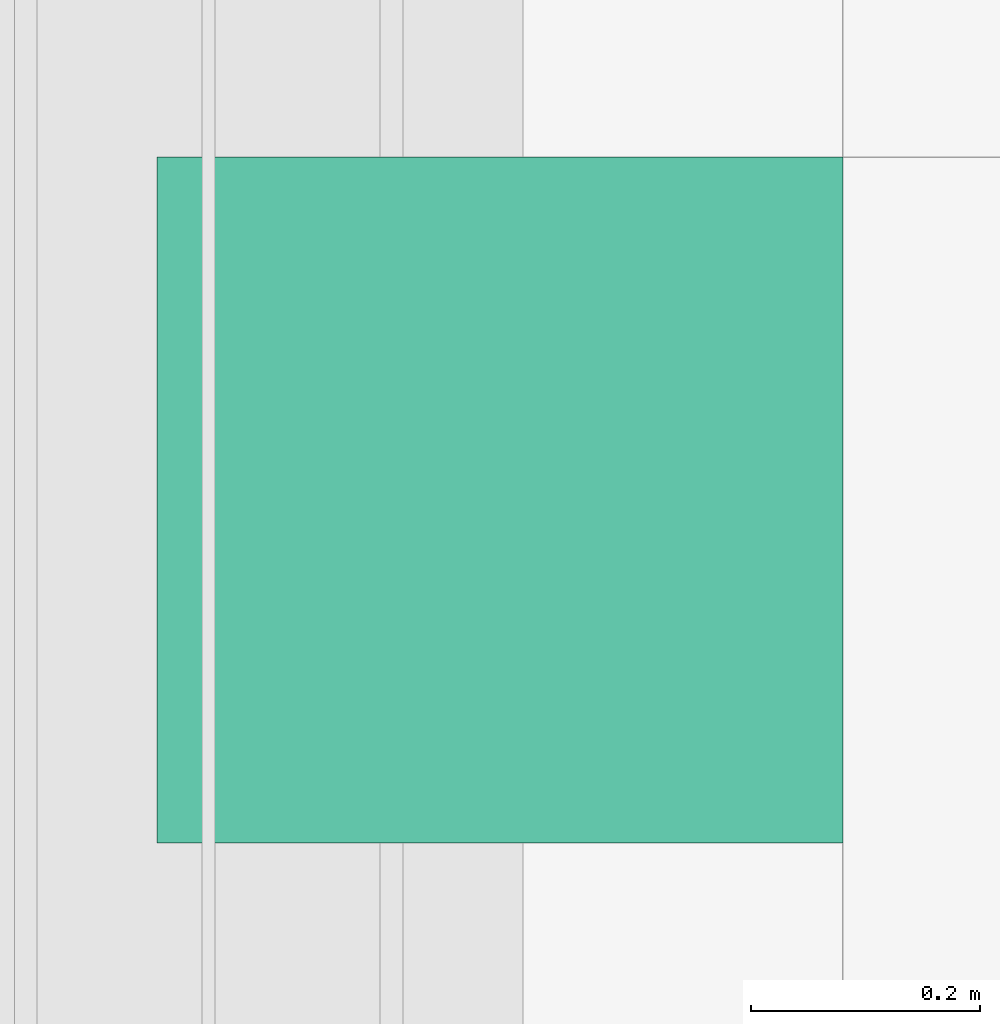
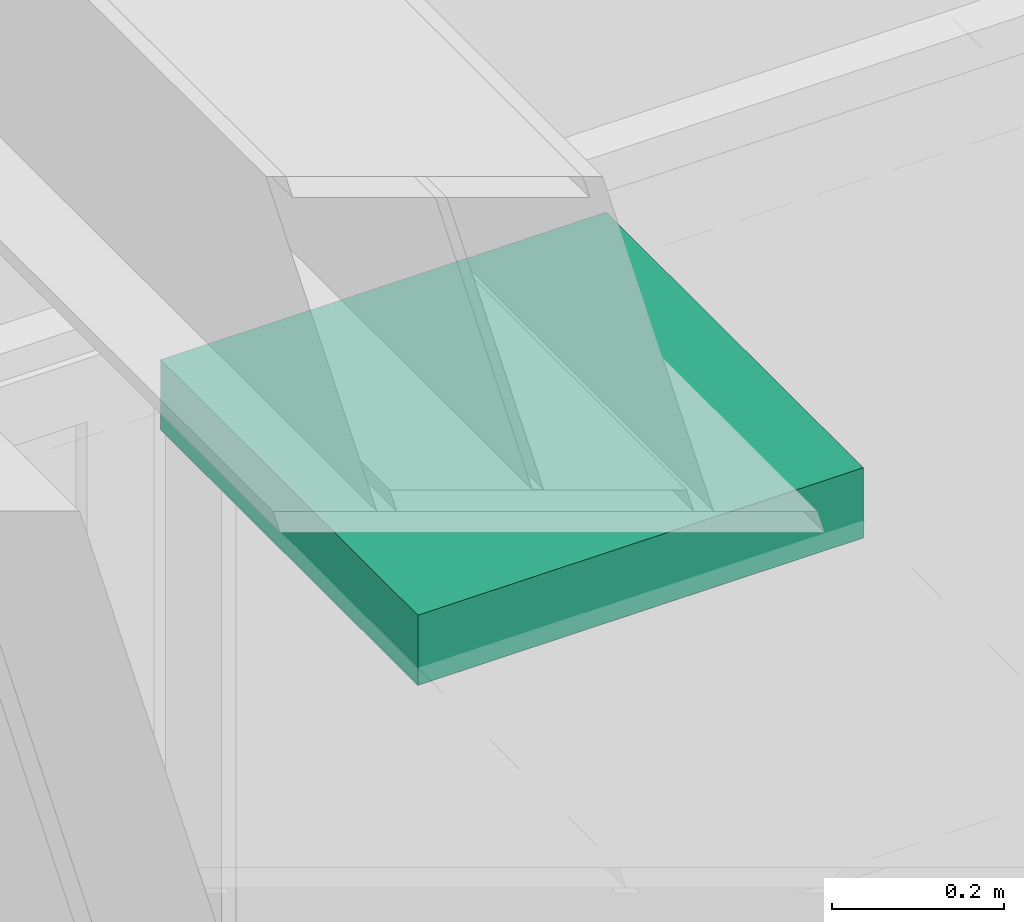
# One storey, part 294 of 347: 1 flow terminal.
"""IFC2X3 building model written with IfcOpenShell, lengths in millimetres."""

from ifc_helpers import new_model, entity, si_unit, converted_unit, derived_unit, money_unit, direction, frame, origin_with_axes, place, context, subcontext, project, spatial, open_shell, faceted_brep, surface_model, source, transform, mapped, type_object, type_shapes, element, save


model = new_model("IFC2X3")

# Units and contexts
model_context = context("Model", 3, precision=0.01, world=origin_with_axes(), true_north=direction((0.0, 1.0)))
plan_context = context("Plan", 3, precision=0.01, world=origin_with_axes(), true_north=direction((0.0, 1.0)))
body_context = subcontext(model_context, "Body", "Model", "MODEL_VIEW")
ifc_project = project(units=[si_unit("LENGTHUNIT", "METRE", prefix="MILLI"), si_unit("AREAUNIT", "SQUARE_METRE"), si_unit("VOLUMEUNIT", "CUBIC_METRE"), converted_unit("PLANEANGLEUNIT", "DEGREE", entity("IfcPlaneAngleMeasure", 0.0174532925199), si_unit("PLANEANGLEUNIT", "RADIAN"), dimensions=[0, 0, 0, 0, 0, 0, 0]), money_unit("EUR"), converted_unit("TIMEUNIT", "Year", entity("IfcTimeMeasure", 31556926.0), si_unit("TIMEUNIT", "SECOND"), dimensions=[0, 0, 1, 0, 0, 0, 0]), si_unit("MASSUNIT", "GRAM", prefix="KILO"), si_unit("THERMODYNAMICTEMPERATUREUNIT", "DEGREE_CELSIUS"), si_unit("LUMINOUSINTENSITYUNIT", "LUMEN"), si_unit("ENERGYUNIT", "JOULE", prefix="MEGA"), derived_unit("THERMALCONDUCTANCEUNIT", [(si_unit("POWERUNIT", "WATT"), 1), (si_unit("LENGTHUNIT", "METRE"), -1), (si_unit("THERMODYNAMICTEMPERATUREUNIT", "KELVIN"), -1)]), derived_unit("SPECIFICHEATCAPACITYUNIT", [(si_unit("ENERGYUNIT", "JOULE"), 1), (si_unit("MASSUNIT", "GRAM", prefix="KILO"), -1), (si_unit("THERMODYNAMICTEMPERATUREUNIT", "KELVIN"), -1)]), derived_unit("MASSDENSITYUNIT", [(si_unit("MASSUNIT", "GRAM", prefix="KILO"), 1), (si_unit("VOLUMEUNIT", "CUBIC_METRE"), -1)])], contexts=[model_context, plan_context])

# Site, building, storey
site_placement = place(None, origin_with_axes())
site = spatial("IfcSite", under=ifc_project, at=site_placement, Name="Site", CompositionType="ELEMENT")
building_placement = place(site_placement, origin_with_axes())
building = spatial("IfcBuilding", under=site, at=building_placement, Name="Naam gebouw", CompositionType="ELEMENT")
storey_placement = place(building_placement, origin_with_axes())
storey = spatial("IfcBuildingStorey", under=building, at=storey_placement, Name="begane grond", CompositionType="ELEMENT", Elevation=0.0)

# Flow terminal
lamp_type = type_object("IfcLampType", Name="TL plafond 25", PredefinedType="NOTDEFINED")
shared_shape = source(origin_with_axes(), body_context, "Body", "SurfaceModel", [
    faceted_brep([(0.0, 0.0, -100.0), (0.0, 0.0, 0.0), (-600.0, 0.0, 0.0), (-600.0, 0.0, -100.0), (0.0, 600.0, -100.0), (0.0, 600.0, 0.0), (-600.0, 600.0, 0.0), (-40.0, 40.0, 0.0), (-560.0, 40.0, 0.0), (-560.0, 560.0, 0.0), (-40.0, 560.0, 0.0), (-600.0, 600.0, -100.0), (-40.0, 40.0, -100.0), (-40.0, 560.0, -100.0), (-560.0, 560.0, -100.0), (-560.0, 40.0, -100.0)], [[[0, 1, 2, 3]], [[4, 5, 1, 0]], [[1, 5, 6, 2], [7, 8, 9, 10]], [[3, 2, 6, 11]], [[0, 3, 11, 4], [12, 13, 14, 15]], [[11, 6, 5, 4]], [[15, 8, 7, 12]], [[14, 9, 8, 15]], [[13, 10, 9, 14]], [[12, 7, 10, 13]]]),
    faceted_brep([(-40.0, 40.0, -16.3333333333), (-40.0, 40.0, 0.0), (-560.0, 40.0, 0.0), (-560.0, 40.0, -16.3333333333), (-40.0, 560.0, -16.3333333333), (-40.0, 560.0, 0.0), (-560.0, 560.0, 0.0), (-560.0, 560.0, -16.3333333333)], [[[0, 1, 2, 3]], [[4, 5, 1, 0]], [[1, 5, 6, 2]], [[3, 2, 6, 7]], [[0, 3, 7, 4]], [[7, 6, 5, 4]]]),
    surface_model("IfcShellBasedSurfaceModel", [(-559.0, 41.0, -100.0), (-559.0, 559.0, -100.0), (-40.0, 559.0, -100.0), (-40.0, 41.0, -100.0)], [open_shell([[[0, 1, 2, 3]]])]),
    faceted_brep([(-40.0, 40.0, -100.0), (-40.0, 40.0, -60.0), (-560.0, 40.0, -60.0), (-560.0, 40.0, -100.0), (-40.0, 560.0, -100.0), (-40.0, 560.0, -60.0), (-560.0, 560.0, -60.0), (-41.0, 41.0, -60.0), (-559.0, 41.0, -60.0), (-559.0, 559.0, -60.0), (-41.0, 559.0, -60.0), (-560.0, 560.0, -100.0), (-41.0, 41.0, -100.0), (-41.0, 559.0, -100.0), (-559.0, 559.0, -100.0), (-559.0, 41.0, -100.0)], [[[0, 1, 2, 3]], [[4, 5, 1, 0]], [[1, 5, 6, 2], [7, 8, 9, 10]], [[3, 2, 6, 11]], [[0, 3, 11, 4], [12, 13, 14, 15]], [[11, 6, 5, 4]], [[15, 8, 7, 12]], [[14, 9, 8, 15]], [[13, 10, 9, 14]], [[12, 7, 10, 13]]]),
    faceted_brep([(-40.0, 144.0, -48.3333333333), (-560.0, 144.0, -48.3333333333), (-560.0, 149.740251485, -47.191526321), (-40.0, 149.740251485, -47.191526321), (-40.0, 138.259748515, -47.191526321), (-560.0, 138.259748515, -47.191526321), (-560.0, 133.393398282, -43.9399350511), (-560.0, 130.141807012, -39.0735848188), (-560.0, 129.0, -33.3333333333), (-560.0, 130.141807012, -27.5930818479), (-560.0, 133.393398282, -22.7267316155), (-560.0, 138.259748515, -19.4751403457), (-560.0, 144.0, -18.3333333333), (-560.0, 149.740251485, -19.4751403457), (-560.0, 154.606601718, -22.7267316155), (-560.0, 157.858192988, -27.5930818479), (-560.0, 159.0, -33.3333333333), (-560.0, 157.858192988, -39.0735848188), (-560.0, 154.606601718, -43.9399350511), (-560.0, 144.0, -46.3333333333), (-560.0, 148.974884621, -45.343767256), (-560.0, 153.192388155, -42.5257214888), (-560.0, 156.010433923, -38.3082179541), (-560.0, 157.0, -33.3333333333), (-560.0, 156.010433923, -28.3584487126), (-560.0, 153.192388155, -24.1409451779), (-560.0, 148.974884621, -21.3228994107), (-560.0, 144.0, -20.3333333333), (-560.0, 139.025115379, -21.3228994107), (-560.0, 134.807611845, -24.1409451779), (-560.0, 131.989566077, -28.3584487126), (-560.0, 131.0, -33.3333333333), (-560.0, 131.989566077, -38.3082179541), (-560.0, 134.807611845, -42.5257214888), (-560.0, 139.025115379, -45.343767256), (-40.0, 154.606601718, -43.9399350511), (-40.0, 157.858192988, -39.0735848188), (-40.0, 159.0, -33.3333333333), (-40.0, 157.858192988, -27.5930818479), (-40.0, 154.606601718, -22.7267316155), (-40.0, 149.740251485, -19.4751403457), (-40.0, 144.0, -18.3333333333), (-40.0, 138.259748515, -19.4751403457), (-40.0, 133.393398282, -22.7267316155), (-40.0, 130.141807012, -27.5930818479), (-40.0, 129.0, -33.3333333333), (-40.0, 130.141807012, -39.0735848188), (-40.0, 133.393398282, -43.9399350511), (-40.0, 144.0, -46.3333333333), (-40.0, 139.025115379, -45.343767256), (-40.0, 134.807611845, -42.5257214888), (-40.0, 131.989566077, -38.3082179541), (-40.0, 131.0, -33.3333333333), (-40.0, 131.989566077, -28.3584487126), (-40.0, 134.807611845, -24.1409451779), (-40.0, 139.025115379, -21.3228994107), (-40.0, 144.0, -20.3333333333), (-40.0, 148.974884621, -21.3228994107), (-40.0, 153.192388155, -24.1409451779), (-40.0, 156.010433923, -28.3584487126), (-40.0, 157.0, -33.3333333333), (-40.0, 156.010433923, -38.3082179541), (-40.0, 153.192388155, -42.5257214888), (-40.0, 148.974884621, -45.343767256)], [[[0, 1, 2, 3]], [[4, 5, 1, 0]], [[1, 5, 6, 7, 8, 9, 10, 11, 12, 13, 14, 15, 16, 17, 18, 2], [19, 20, 21, 22, 23, 24, 25, 26, 27, 28, 29, 30, 31, 32, 33, 34]], [[3, 2, 18, 35]], [[0, 3, 35, 36, 37, 38, 39, 40, 41, 42, 43, 44, 45, 46, 47, 4], [48, 49, 50, 51, 52, 53, 54, 55, 56, 57, 58, 59, 60, 61, 62, 63]], [[47, 6, 5, 4]], [[46, 7, 6, 47]], [[45, 8, 7, 46]], [[44, 9, 8, 45]], [[43, 10, 9, 44]], [[42, 11, 10, 43]], [[41, 12, 11, 42]], [[40, 13, 12, 41]], [[39, 14, 13, 40]], [[38, 15, 14, 39]], [[37, 16, 15, 38]], [[36, 17, 16, 37]], [[35, 18, 17, 36]], [[63, 20, 19, 48]], [[62, 21, 20, 63]], [[61, 22, 21, 62]], [[60, 23, 22, 61]], [[59, 24, 23, 60]], [[58, 25, 24, 59]], [[57, 26, 25, 58]], [[56, 27, 26, 57]], [[55, 28, 27, 56]], [[54, 29, 28, 55]], [[53, 30, 29, 54]], [[52, 31, 30, 53]], [[51, 32, 31, 52]], [[50, 33, 32, 51]], [[49, 34, 33, 50]], [[48, 19, 34, 49]]]),
    faceted_brep([(-40.0, 248.0, -48.3333333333), (-560.0, 248.0, -48.3333333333), (-560.0, 253.740251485, -47.191526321), (-40.0, 253.740251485, -47.191526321), (-40.0, 242.259748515, -47.191526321), (-560.0, 242.259748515, -47.191526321), (-560.0, 237.393398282, -43.9399350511), (-560.0, 234.141807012, -39.0735848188), (-560.0, 233.0, -33.3333333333), (-560.0, 234.141807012, -27.5930818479), (-560.0, 237.393398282, -22.7267316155), (-560.0, 242.259748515, -19.4751403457), (-560.0, 248.0, -18.3333333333), (-560.0, 253.740251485, -19.4751403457), (-560.0, 258.606601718, -22.7267316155), (-560.0, 261.858192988, -27.5930818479), (-560.0, 263.0, -33.3333333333), (-560.0, 261.858192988, -39.0735848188), (-560.0, 258.606601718, -43.9399350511), (-560.0, 248.0, -46.3333333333), (-560.0, 252.974884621, -45.343767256), (-560.0, 257.192388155, -42.5257214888), (-560.0, 260.010433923, -38.3082179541), (-560.0, 261.0, -33.3333333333), (-560.0, 260.010433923, -28.3584487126), (-560.0, 257.192388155, -24.1409451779), (-560.0, 252.974884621, -21.3228994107), (-560.0, 248.0, -20.3333333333), (-560.0, 243.025115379, -21.3228994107), (-560.0, 238.807611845, -24.1409451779), (-560.0, 235.989566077, -28.3584487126), (-560.0, 235.0, -33.3333333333), (-560.0, 235.989566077, -38.3082179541), (-560.0, 238.807611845, -42.5257214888), (-560.0, 243.025115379, -45.343767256), (-40.0, 258.606601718, -43.9399350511), (-40.0, 261.858192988, -39.0735848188), (-40.0, 263.0, -33.3333333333), (-40.0, 261.858192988, -27.5930818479), (-40.0, 258.606601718, -22.7267316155), (-40.0, 253.740251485, -19.4751403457), (-40.0, 248.0, -18.3333333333), (-40.0, 242.259748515, -19.4751403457), (-40.0, 237.393398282, -22.7267316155), (-40.0, 234.141807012, -27.5930818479), (-40.0, 233.0, -33.3333333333), (-40.0, 234.141807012, -39.0735848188), (-40.0, 237.393398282, -43.9399350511), (-40.0, 248.0, -46.3333333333), (-40.0, 243.025115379, -45.343767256), (-40.0, 238.807611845, -42.5257214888), (-40.0, 235.989566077, -38.3082179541), (-40.0, 235.0, -33.3333333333), (-40.0, 235.989566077, -28.3584487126), (-40.0, 238.807611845, -24.1409451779), (-40.0, 243.025115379, -21.3228994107), (-40.0, 248.0, -20.3333333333), (-40.0, 252.974884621, -21.3228994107), (-40.0, 257.192388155, -24.1409451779), (-40.0, 260.010433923, -28.3584487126), (-40.0, 261.0, -33.3333333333), (-40.0, 260.010433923, -38.3082179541), (-40.0, 257.192388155, -42.5257214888), (-40.0, 252.974884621, -45.343767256)], [[[0, 1, 2, 3]], [[4, 5, 1, 0]], [[1, 5, 6, 7, 8, 9, 10, 11, 12, 13, 14, 15, 16, 17, 18, 2], [19, 20, 21, 22, 23, 24, 25, 26, 27, 28, 29, 30, 31, 32, 33, 34]], [[3, 2, 18, 35]], [[0, 3, 35, 36, 37, 38, 39, 40, 41, 42, 43, 44, 45, 46, 47, 4], [48, 49, 50, 51, 52, 53, 54, 55, 56, 57, 58, 59, 60, 61, 62, 63]], [[47, 6, 5, 4]], [[46, 7, 6, 47]], [[45, 8, 7, 46]], [[44, 9, 8, 45]], [[43, 10, 9, 44]], [[42, 11, 10, 43]], [[41, 12, 11, 42]], [[40, 13, 12, 41]], [[39, 14, 13, 40]], [[38, 15, 14, 39]], [[37, 16, 15, 38]], [[36, 17, 16, 37]], [[35, 18, 17, 36]], [[63, 20, 19, 48]], [[62, 21, 20, 63]], [[61, 22, 21, 62]], [[60, 23, 22, 61]], [[59, 24, 23, 60]], [[58, 25, 24, 59]], [[57, 26, 25, 58]], [[56, 27, 26, 57]], [[55, 28, 27, 56]], [[54, 29, 28, 55]], [[53, 30, 29, 54]], [[52, 31, 30, 53]], [[51, 32, 31, 52]], [[50, 33, 32, 51]], [[49, 34, 33, 50]], [[48, 19, 34, 49]]]),
    faceted_brep([(-40.0, 352.0, -48.3333333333), (-560.0, 352.0, -48.3333333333), (-560.0, 357.740251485, -47.191526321), (-40.0, 357.740251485, -47.191526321), (-40.0, 346.259748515, -47.191526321), (-560.0, 346.259748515, -47.191526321), (-560.0, 341.393398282, -43.9399350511), (-560.0, 338.141807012, -39.0735848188), (-560.0, 337.0, -33.3333333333), (-560.0, 338.141807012, -27.5930818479), (-560.0, 341.393398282, -22.7267316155), (-560.0, 346.259748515, -19.4751403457), (-560.0, 352.0, -18.3333333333), (-560.0, 357.740251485, -19.4751403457), (-560.0, 362.606601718, -22.7267316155), (-560.0, 365.858192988, -27.5930818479), (-560.0, 367.0, -33.3333333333), (-560.0, 365.858192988, -39.0735848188), (-560.0, 362.606601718, -43.9399350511), (-560.0, 352.0, -46.3333333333), (-560.0, 356.974884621, -45.343767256), (-560.0, 361.192388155, -42.5257214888), (-560.0, 364.010433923, -38.3082179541), (-560.0, 365.0, -33.3333333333), (-560.0, 364.010433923, -28.3584487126), (-560.0, 361.192388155, -24.1409451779), (-560.0, 356.974884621, -21.3228994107), (-560.0, 352.0, -20.3333333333), (-560.0, 347.025115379, -21.3228994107), (-560.0, 342.807611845, -24.1409451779), (-560.0, 339.989566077, -28.3584487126), (-560.0, 339.0, -33.3333333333), (-560.0, 339.989566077, -38.3082179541), (-560.0, 342.807611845, -42.5257214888), (-560.0, 347.025115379, -45.343767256), (-40.0, 362.606601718, -43.9399350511), (-40.0, 365.858192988, -39.0735848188), (-40.0, 367.0, -33.3333333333), (-40.0, 365.858192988, -27.5930818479), (-40.0, 362.606601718, -22.7267316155), (-40.0, 357.740251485, -19.4751403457), (-40.0, 352.0, -18.3333333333), (-40.0, 346.259748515, -19.4751403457), (-40.0, 341.393398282, -22.7267316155), (-40.0, 338.141807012, -27.5930818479), (-40.0, 337.0, -33.3333333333), (-40.0, 338.141807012, -39.0735848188), (-40.0, 341.393398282, -43.9399350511), (-40.0, 352.0, -46.3333333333), (-40.0, 347.025115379, -45.343767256), (-40.0, 342.807611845, -42.5257214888), (-40.0, 339.989566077, -38.3082179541), (-40.0, 339.0, -33.3333333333), (-40.0, 339.989566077, -28.3584487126), (-40.0, 342.807611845, -24.1409451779), (-40.0, 347.025115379, -21.3228994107), (-40.0, 352.0, -20.3333333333), (-40.0, 356.974884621, -21.3228994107), (-40.0, 361.192388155, -24.1409451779), (-40.0, 364.010433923, -28.3584487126), (-40.0, 365.0, -33.3333333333), (-40.0, 364.010433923, -38.3082179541), (-40.0, 361.192388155, -42.5257214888), (-40.0, 356.974884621, -45.343767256)], [[[0, 1, 2, 3]], [[4, 5, 1, 0]], [[1, 5, 6, 7, 8, 9, 10, 11, 12, 13, 14, 15, 16, 17, 18, 2], [19, 20, 21, 22, 23, 24, 25, 26, 27, 28, 29, 30, 31, 32, 33, 34]], [[3, 2, 18, 35]], [[0, 3, 35, 36, 37, 38, 39, 40, 41, 42, 43, 44, 45, 46, 47, 4], [48, 49, 50, 51, 52, 53, 54, 55, 56, 57, 58, 59, 60, 61, 62, 63]], [[47, 6, 5, 4]], [[46, 7, 6, 47]], [[45, 8, 7, 46]], [[44, 9, 8, 45]], [[43, 10, 9, 44]], [[42, 11, 10, 43]], [[41, 12, 11, 42]], [[40, 13, 12, 41]], [[39, 14, 13, 40]], [[38, 15, 14, 39]], [[37, 16, 15, 38]], [[36, 17, 16, 37]], [[35, 18, 17, 36]], [[63, 20, 19, 48]], [[62, 21, 20, 63]], [[61, 22, 21, 62]], [[60, 23, 22, 61]], [[59, 24, 23, 60]], [[58, 25, 24, 59]], [[57, 26, 25, 58]], [[56, 27, 26, 57]], [[55, 28, 27, 56]], [[54, 29, 28, 55]], [[53, 30, 29, 54]], [[52, 31, 30, 53]], [[51, 32, 31, 52]], [[50, 33, 32, 51]], [[49, 34, 33, 50]], [[48, 19, 34, 49]]]),
    faceted_brep([(-40.0, 456.0, -48.3333333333), (-560.0, 456.0, -48.3333333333), (-560.0, 461.740251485, -47.191526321), (-40.0, 461.740251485, -47.191526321), (-40.0, 450.259748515, -47.191526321), (-560.0, 450.259748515, -47.191526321), (-560.0, 445.393398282, -43.9399350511), (-560.0, 442.141807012, -39.0735848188), (-560.0, 441.0, -33.3333333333), (-560.0, 442.141807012, -27.5930818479), (-560.0, 445.393398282, -22.7267316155), (-560.0, 450.259748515, -19.4751403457), (-560.0, 456.0, -18.3333333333), (-560.0, 461.740251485, -19.4751403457), (-560.0, 466.606601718, -22.7267316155), (-560.0, 469.858192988, -27.5930818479), (-560.0, 471.0, -33.3333333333), (-560.0, 469.858192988, -39.0735848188), (-560.0, 466.606601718, -43.9399350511), (-560.0, 456.0, -46.3333333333), (-560.0, 460.974884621, -45.343767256), (-560.0, 465.192388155, -42.5257214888), (-560.0, 468.010433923, -38.3082179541), (-560.0, 469.0, -33.3333333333), (-560.0, 468.010433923, -28.3584487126), (-560.0, 465.192388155, -24.1409451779), (-560.0, 460.974884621, -21.3228994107), (-560.0, 456.0, -20.3333333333), (-560.0, 451.025115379, -21.3228994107), (-560.0, 446.807611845, -24.1409451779), (-560.0, 443.989566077, -28.3584487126), (-560.0, 443.0, -33.3333333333), (-560.0, 443.989566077, -38.3082179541), (-560.0, 446.807611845, -42.5257214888), (-560.0, 451.025115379, -45.343767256), (-40.0, 466.606601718, -43.9399350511), (-40.0, 469.858192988, -39.0735848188), (-40.0, 471.0, -33.3333333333), (-40.0, 469.858192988, -27.5930818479), (-40.0, 466.606601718, -22.7267316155), (-40.0, 461.740251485, -19.4751403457), (-40.0, 456.0, -18.3333333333), (-40.0, 450.259748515, -19.4751403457), (-40.0, 445.393398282, -22.7267316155), (-40.0, 442.141807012, -27.5930818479), (-40.0, 441.0, -33.3333333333), (-40.0, 442.141807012, -39.0735848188), (-40.0, 445.393398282, -43.9399350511), (-40.0, 456.0, -46.3333333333), (-40.0, 451.025115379, -45.343767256), (-40.0, 446.807611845, -42.5257214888), (-40.0, 443.989566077, -38.3082179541), (-40.0, 443.0, -33.3333333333), (-40.0, 443.989566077, -28.3584487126), (-40.0, 446.807611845, -24.1409451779), (-40.0, 451.025115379, -21.3228994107), (-40.0, 456.0, -20.3333333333), (-40.0, 460.974884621, -21.3228994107), (-40.0, 465.192388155, -24.1409451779), (-40.0, 468.010433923, -28.3584487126), (-40.0, 469.0, -33.3333333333), (-40.0, 468.010433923, -38.3082179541), (-40.0, 465.192388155, -42.5257214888), (-40.0, 460.974884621, -45.343767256)], [[[0, 1, 2, 3]], [[4, 5, 1, 0]], [[1, 5, 6, 7, 8, 9, 10, 11, 12, 13, 14, 15, 16, 17, 18, 2], [19, 20, 21, 22, 23, 24, 25, 26, 27, 28, 29, 30, 31, 32, 33, 34]], [[3, 2, 18, 35]], [[0, 3, 35, 36, 37, 38, 39, 40, 41, 42, 43, 44, 45, 46, 47, 4], [48, 49, 50, 51, 52, 53, 54, 55, 56, 57, 58, 59, 60, 61, 62, 63]], [[47, 6, 5, 4]], [[46, 7, 6, 47]], [[45, 8, 7, 46]], [[44, 9, 8, 45]], [[43, 10, 9, 44]], [[42, 11, 10, 43]], [[41, 12, 11, 42]], [[40, 13, 12, 41]], [[39, 14, 13, 40]], [[38, 15, 14, 39]], [[37, 16, 15, 38]], [[36, 17, 16, 37]], [[35, 18, 17, 36]], [[63, 20, 19, 48]], [[62, 21, 20, 63]], [[61, 22, 21, 62]], [[60, 23, 22, 61]], [[59, 24, 23, 60]], [[58, 25, 24, 59]], [[57, 26, 25, 58]], [[56, 27, 26, 57]], [[55, 28, 27, 56]], [[54, 29, 28, 55]], [[53, 30, 29, 54]], [[52, 31, 30, 53]], [[51, 32, 31, 52]], [[50, 33, 32, 51]], [[49, 34, 33, 50]], [[48, 19, 34, 49]]]),
])
type_shapes(lamp_type, [shared_shape])
flow_terminal_placement = place(storey_placement, frame((45100.0, 43590.5, 3295.0), z_axis=(0.0, 0.0, 1.0), x_axis=(1.0, 0.0, 0.0)))
element("IfcFlowTerminal", 1, at=flow_terminal_placement, inside=storey, type_object=lamp_type, Name="63_Lamp-x", ObjectType="Lamp", context=body_context, shape_type="MappedRepresentation", body=[
    mapped(shared_shape, transform((0.0, 0.0, 0.0))),
])

save(model, "model.ifc")
